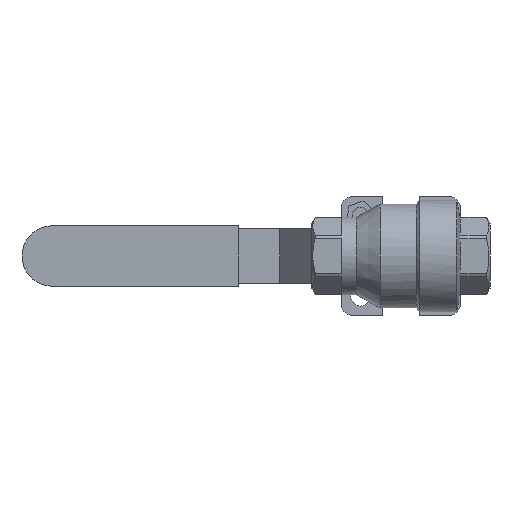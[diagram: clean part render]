
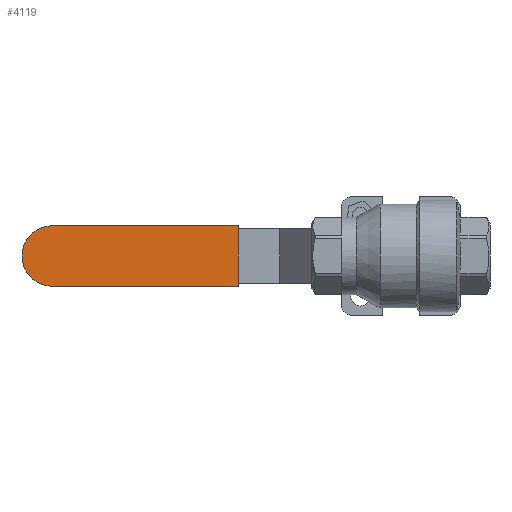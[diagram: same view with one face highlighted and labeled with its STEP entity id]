
A CAD part, front view. The second image highlights one B-rep face of the part: STEP entity #4119.
In plain terms, the highlighted planar face has unit normal (0, -1, 0).
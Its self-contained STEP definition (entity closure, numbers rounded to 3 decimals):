
#13 = CARTESIAN_POINT ( 'NONE',  ( -119., 61.5, 9.5 ) ) ;
#108 = VERTEX_POINT ( 'NONE', #2982 ) ;
#308 = ORIENTED_EDGE ( 'NONE', *, *, #4217, .T. ) ;
#594 = VERTEX_POINT ( 'NONE', #2323 ) ;
#636 = EDGE_CURVE ( 'NONE', #594, #108, #3048, .T. ) ;
#685 = DIRECTION ( 'NONE',  ( 0., -1., 0. ) ) ;
#727 = CARTESIAN_POINT ( 'NONE',  ( -109.5, 61.5, 0. ) ) ;
#1076 = CIRCLE ( 'NONE', #1698, 9.5 ) ;
#1102 = EDGE_CURVE ( 'NONE', #3410, #108, #1349, .T. ) ;
#1349 = LINE ( 'NONE', #3079, #1369 ) ;
#1369 = VECTOR ( 'NONE', #3056, 1000. ) ;
#1685 = DIRECTION ( 'NONE',  ( 1., 0., 0. ) ) ;
#1698 = AXIS2_PLACEMENT_3D ( 'NONE', #727, #685, #2399 ) ;
#1789 = PLANE ( 'NONE',  #1800 ) ;
#1800 = AXIS2_PLACEMENT_3D ( 'NONE', #13, #1821, #3493 ) ;
#1804 = ORIENTED_EDGE ( 'NONE', *, *, #1102, .T. ) ;
#1821 = DIRECTION ( 'NONE',  ( 0., 1., 0. ) ) ;
#2064 = EDGE_LOOP ( 'NONE', ( #3252, #308, #1804, #4254 ) ) ;
#2200 = CARTESIAN_POINT ( 'NONE',  ( -51., 61.5, 9.5 ) ) ;
#2323 = CARTESIAN_POINT ( 'NONE',  ( -51., 61.5, 9.5 ) ) ;
#2399 = DIRECTION ( 'NONE',  ( 0., 0., 1. ) ) ;
#2511 = CARTESIAN_POINT ( 'NONE',  ( -109.5, 61.5, -9.5 ) ) ;
#2935 = CARTESIAN_POINT ( 'NONE',  ( -109.5, 61.5, 9.5 ) ) ;
#2982 = CARTESIAN_POINT ( 'NONE',  ( -51., 61.5, -9.5 ) ) ;
#3004 = VECTOR ( 'NONE', #1685, 1000. ) ;
#3040 = VECTOR ( 'NONE', #4288, 1000. ) ;
#3048 = LINE ( 'NONE', #2200, #3040 ) ;
#3054 = LINE ( 'NONE', #3425, #3004 ) ;
#3056 = DIRECTION ( 'NONE',  ( 1., 0., 0. ) ) ;
#3079 = CARTESIAN_POINT ( 'NONE',  ( -119., 61.5, -9.5 ) ) ;
#3252 = ORIENTED_EDGE ( 'NONE', *, *, #3280, .F. ) ;
#3280 = EDGE_CURVE ( 'NONE', #3732, #594, #3054, .T. ) ;
#3410 = VERTEX_POINT ( 'NONE', #2511 ) ;
#3425 = CARTESIAN_POINT ( 'NONE',  ( -119., 61.5, 9.5 ) ) ;
#3493 = DIRECTION ( 'NONE',  ( 0., 0., 1. ) ) ;
#3672 = FACE_OUTER_BOUND ( 'NONE', #2064, .T. ) ;
#3732 = VERTEX_POINT ( 'NONE', #2935 ) ;
#4119 = ADVANCED_FACE ( 'NONE', ( #3672 ), #1789, .F. ) ;
#4217 = EDGE_CURVE ( 'NONE', #3732, #3410, #1076, .T. ) ;
#4254 = ORIENTED_EDGE ( 'NONE', *, *, #636, .F. ) ;
#4288 = DIRECTION ( 'NONE',  ( 0., 0., -1. ) ) ;
